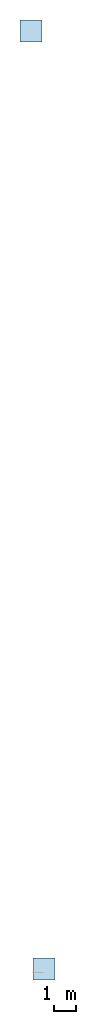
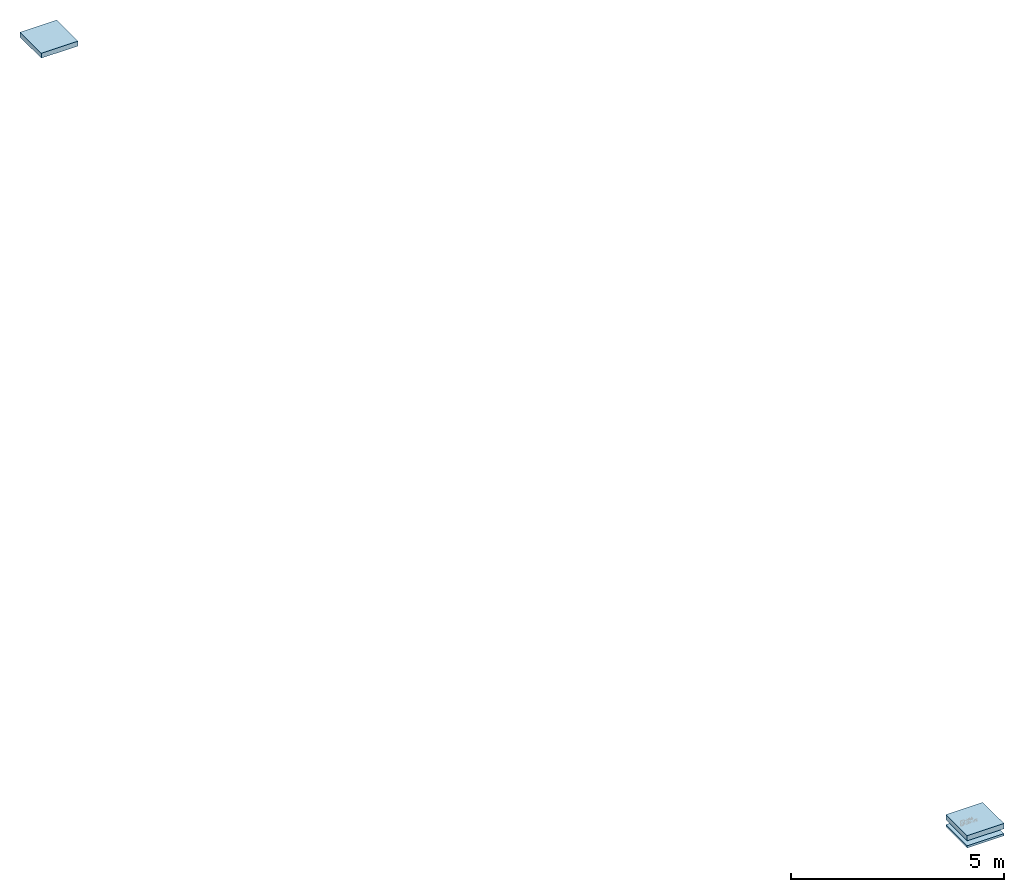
# Not in any storey, part 1 of 2: 2 roofs, 1 slab, 2 elements without a shape of their own.
"""IFC4 model written with IfcOpenShell, lengths in metres."""

from ifc_helpers import new_model, entity, si_unit, converted_unit, derived_unit, direction, frame, origin, place, context, subcontext, project, spatial, indexed_curve, outline, extrude, material, constituent, constituent_set, type_object, element, aggregate, save


model = new_model("IFC4")

# Units and contexts
model_context = context("Model", 3, precision=1e-05, world=origin(), true_north=direction((6.123031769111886e-17, 1.0)))
body_context = subcontext(model_context, "Body", "Model", "MODEL_VIEW")
ifc_project = project(units=[si_unit("LENGTHUNIT", "METRE"), si_unit("AREAUNIT", "SQUARE_METRE"), si_unit("VOLUMEUNIT", "CUBIC_METRE"), converted_unit("PLANEANGLEUNIT", "DEGREE", entity("IfcRatioMeasure", 0.017453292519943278), si_unit("PLANEANGLEUNIT", "RADIAN"), dimensions=[0, 0, 0, 0, 0, 0, 0]), si_unit("MASSUNIT", "GRAM", prefix="KILO"), derived_unit("MASSDENSITYUNIT", [(si_unit("MASSUNIT", "GRAM", prefix="KILO"), 1), (si_unit("LENGTHUNIT", "METRE"), -3)]), derived_unit("IONCONCENTRATIONUNIT", [(si_unit("MASSUNIT", "GRAM", prefix="KILO"), 1), (si_unit("LENGTHUNIT", "METRE"), -3)]), derived_unit("MOMENTOFINERTIAUNIT", [(si_unit("LENGTHUNIT", "METRE"), 4)]), si_unit("TIMEUNIT", "SECOND"), si_unit("FREQUENCYUNIT", "HERTZ"), si_unit("THERMODYNAMICTEMPERATUREUNIT", "DEGREE_CELSIUS"), derived_unit("THERMALTRANSMITTANCEUNIT", [(si_unit("MASSUNIT", "GRAM", prefix="KILO"), 1), (si_unit("THERMODYNAMICTEMPERATUREUNIT", "KELVIN"), -1), (si_unit("TIMEUNIT", "SECOND"), -3)]), derived_unit("THERMALCONDUCTANCEUNIT", [(si_unit("MASSUNIT", "GRAM", prefix="KILO"), 1), (si_unit("THERMODYNAMICTEMPERATUREUNIT", "KELVIN"), -1), (si_unit("TIMEUNIT", "SECOND"), -3), (si_unit("LENGTHUNIT", "METRE"), 1)]), derived_unit("VOLUMETRICFLOWRATEUNIT", [(si_unit("LENGTHUNIT", "METRE"), 3), (si_unit("TIMEUNIT", "SECOND"), -1)]), derived_unit("MASSFLOWRATEUNIT", [(si_unit("MASSUNIT", "GRAM", prefix="KILO"), 1), (si_unit("TIMEUNIT", "SECOND"), -1)]), derived_unit("ROTATIONALFREQUENCYUNIT", [(si_unit("TIMEUNIT", "SECOND"), -1)]), si_unit("ELECTRICCURRENTUNIT", "AMPERE"), si_unit("ELECTRICVOLTAGEUNIT", "VOLT"), si_unit("POWERUNIT", "WATT"), si_unit("FORCEUNIT", "NEWTON", prefix="KILO"), si_unit("ILLUMINANCEUNIT", "LUX"), si_unit("LUMINOUSFLUXUNIT", "LUMEN"), si_unit("LUMINOUSINTENSITYUNIT", "CANDELA"), derived_unit("USERDEFINED", [(si_unit("MASSUNIT", "GRAM", prefix="KILO"), -1), (si_unit("LENGTHUNIT", "METRE"), -2), (si_unit("TIMEUNIT", "SECOND"), 3), (si_unit("LUMINOUSFLUXUNIT", "LUMEN"), 1)]), derived_unit("USERDEFINED", [(si_unit("MASSUNIT", "GRAM", prefix="KILO"), 1), (si_unit("TIMEUNIT", "SECOND"), -3), (si_unit("LENGTHUNIT", "METRE"), 3), (si_unit("ELECTRICCURRENTUNIT", "AMPERE"), -2)]), derived_unit("SOUNDPOWERUNIT", [(si_unit("MASSUNIT", "GRAM", prefix="KILO"), 1), (si_unit("TIMEUNIT", "SECOND"), -3), (si_unit("LENGTHUNIT", "METRE"), 2)]), derived_unit("SOUNDPRESSUREUNIT", [(si_unit("MASSUNIT", "GRAM", prefix="KILO"), 1), (si_unit("LENGTHUNIT", "METRE"), -1), (si_unit("TIMEUNIT", "SECOND"), -2)]), derived_unit("LINEARVELOCITYUNIT", [(si_unit("LENGTHUNIT", "METRE"), 1), (si_unit("TIMEUNIT", "SECOND"), -1)]), si_unit("PRESSUREUNIT", "PASCAL"), derived_unit("USERDEFINED", [(si_unit("MASSUNIT", "GRAM", prefix="KILO"), 1), (si_unit("LENGTHUNIT", "METRE"), -2), (si_unit("TIMEUNIT", "SECOND"), -2)]), derived_unit("LINEARFORCEUNIT", [(si_unit("MASSUNIT", "GRAM", prefix="KILO"), 1), (si_unit("TIMEUNIT", "SECOND"), -2)]), derived_unit("PLANARFORCEUNIT", [(si_unit("MASSUNIT", "GRAM", prefix="KILO"), 1), (si_unit("LENGTHUNIT", "METRE"), -1), (si_unit("TIMEUNIT", "SECOND"), -2)]), derived_unit("SPECIFICHEATCAPACITYUNIT", [(si_unit("THERMODYNAMICTEMPERATUREUNIT", "KELVIN"), -1), (si_unit("LENGTHUNIT", "METRE"), 2), (si_unit("TIMEUNIT", "SECOND"), -2)]), derived_unit("HEATINGVALUEUNIT", [(si_unit("LENGTHUNIT", "METRE"), 2), (si_unit("TIMEUNIT", "SECOND"), -2)]), derived_unit("VAPORPERMEABILITYUNIT", [(si_unit("LENGTHUNIT", "METRE"), -1), (si_unit("TIMEUNIT", "SECOND"), 1)]), derived_unit("DYNAMICVISCOSITYUNIT", [(si_unit("MASSUNIT", "GRAM", prefix="KILO"), 1), (si_unit("TIMEUNIT", "SECOND"), -1), (si_unit("LENGTHUNIT", "METRE"), -1)]), derived_unit("THERMALEXPANSIONCOEFFICIENTUNIT", [(si_unit("THERMODYNAMICTEMPERATUREUNIT", "KELVIN"), -1)]), derived_unit("MODULUSOFELASTICITYUNIT", [(si_unit("MASSUNIT", "GRAM", prefix="KILO"), 1), (si_unit("LENGTHUNIT", "METRE"), -1), (si_unit("TIMEUNIT", "SECOND"), -2)]), derived_unit("ISOTHERMALMOISTURECAPACITYUNIT", [(si_unit("LENGTHUNIT", "METRE"), 3), (si_unit("MASSUNIT", "GRAM", prefix="KILO"), -1)]), derived_unit("MOISTUREDIFFUSIVITYUNIT", [(si_unit("TIMEUNIT", "SECOND"), -1), (si_unit("LENGTHUNIT", "METRE"), 2)])], contexts=[model_context])

# Site
site_placement = place(None, origin())
site = spatial("IfcSite", under=ifc_project, at=site_placement, Name="Default", CompositionType="ELEMENT")

# Assembly, roofs, slab
assembly_placement = place(site_placement, origin())
assembly = element("IfcElementAssembly", 1, at=assembly_placement, inside=site, Name="Dächer Baugruppe:fbimSg_Roof_bc_WOD_vis_at_NTR_natuREbuilt_FD-HM-GRÜN-VS_GK3_72cm", ObjectType="Dächer Baugruppe:fbimSg_Roof_bc_WOD_vis_at_NTR_natuREbuilt_FD-HM-GRÜN-VS_GK3_72cm", AssemblyPlace="NOTDEFINED", PredefinedType="USERDEFINED")
roof_1_placement = place(assembly_placement, frame((-0.5841346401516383, 42.51469223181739, -2.9772997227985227)))
roof_1 = element("IfcRoof", 2, at=roof_1_placement, Name="Basisdach:fbimSg_Roof_sb_WOD_vis_at_NTR_natuREbuilt_DMh_GK3_k_20cm", ObjectType="Basisdach:fbimSg_Roof_sb_WOD_vis_at_NTR_natuREbuilt_DMh_GK3_k_20cm", PredefinedType="NOTDEFINED")
ifc_material_1 = material(Name="fbim_AT_KLH_Massivholz")
slab_type = type_object("IfcSlabType", Name="Basisdach:fbimSg_Roof_sb_WOD_vis_at_NTR_natuREbuilt_DMh_GK3_k_20cm", PredefinedType="ROOF")
slab_placement = place(roof_1_placement, frame((-0.5841346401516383, 42.51469223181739, -2.9772997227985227)))
slab = element("IfcSlab", 3, at=slab_placement, type_object=slab_type, material=ifc_material_1, Name="Basisdach:fbimSg_Roof_sb_WOD_vis_at_NTR_natuREbuilt_DMh_GK3_k_20cm", ObjectType="Basisdach:fbimSg_Roof_sb_WOD_vis_at_NTR_natuREbuilt_DMh_GK3_k_20cm", PredefinedType="ROOF", context=body_context, shape_type="SweptSolid", body=[
    extrude(outline(indexed_curve([(-0.49999999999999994, 0.49999999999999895), (-0.49999999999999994, -0.49999999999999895), (0.49999999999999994, -0.49999999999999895), (0.49999999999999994, 0.49999999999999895), (-0.49999999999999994, 0.49999999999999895)], self_intersect=False)), frame((0.49999999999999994, 0.49999999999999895, 0.0)), (0.0, 0.0, 1.0), 0.14000000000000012),
])
aggregate(roof_1, [slab])
ifc_material_2 = material(Name="fbim_20252030_AT_Begruenung_extensiv")
ifc_constituent_1 = constituent(ifc_material_2, Name="fbim_20252030_AT_Begruenung_extensiv")
ifc_material_3 = material(Name="fbim_10200515_AT_001_Schutzvlies")
ifc_constituent_2 = constituent(ifc_material_3, Name="fbim_10200515_AT_001_Schutzvlies")
ifc_material_4 = material(Name="fbim_14052005_AT_EPDM_Abdichtungsbahn")
ifc_constituent_3 = constituent(ifc_material_4, Name="fbim_14052005_AT_EPDM_Abdichtungsbahn")
ifc_material_5 = material(Name="OENORM A6240 Dämmstoff (Hart)")
ifc_constituent_4 = constituent(ifc_material_5, Name="OENORM A6240 Dämmstoff (Hart)")
ifc_constituent_5 = constituent(ifc_material_4, Name="fbim_14052005_AT_EPDM_Abdichtungsbahn (2)")
ifc_constituent_set_1 = constituent_set(constituents=[ifc_constituent_1, ifc_constituent_2, ifc_constituent_3, ifc_constituent_4, ifc_constituent_5], Name="Basisdach:fbimSg_Roof_dp_INH_vis_at_NTR_natuREbuilt_DMh_GK3_o_35cm")
roof_type_1 = type_object("IfcRoofType", Name="Basisdach:fbimSg_Roof_dp_INH_vis_at_NTR_natuREbuilt_DMh_GK3_o_35cm", PredefinedType="NOTDEFINED")
roof_2_placement = place(assembly_placement, origin())
roof_2 = element("IfcRoof", 4, at=roof_2_placement, type_object=roof_type_1, material=ifc_constituent_set_1, Name="Basisdach:fbimSg_Roof_dp_INH_vis_at_NTR_natuREbuilt_DMh_GK3_o_35cm", ObjectType="Basisdach:fbimSg_Roof_dp_INH_vis_at_NTR_natuREbuilt_DMh_GK3_o_35cm", PredefinedType="NOTDEFINED", context=body_context, shape_type="SweptSolid", body=[
    extrude(outline(indexed_curve([(-0.49999999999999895, -0.49999999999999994), (0.49999999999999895, -0.49999999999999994), (0.49999999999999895, 0.49999999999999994), (-0.49999999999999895, 0.49999999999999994), (-0.49999999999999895, -0.49999999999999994)], self_intersect=False)), frame((-0.08413468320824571, 43.01469223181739, -2.8372998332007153), z_axis=(0.0, 0.0, 1.0), x_axis=(0.0, -1.0, 0.0)), (0.0, 0.0, 1.0), 0.15000000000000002),
])
ifc_material_6 = material(Name="fbim_14100505_AT_Schafwolle")
ifc_constituent_6 = constituent(ifc_material_6, Name="fbim_14100505_AT_Schafwolle")
ifc_material_7 = material(Name="fbim_16101505_AT_Gipsfaserplatte", Category="Gipsputz")
ifc_constituent_7 = constituent(ifc_material_7, Name="fbim_16101505_AT_Gipsfaserplatte", Category="Gipsputz")
ifc_constituent_set_2 = constituent_set(constituents=[ifc_constituent_6, ifc_constituent_7], Name="Basisdach:fbimSg_Roof_dp_DRW_vis_at_NTR_natuREbuilt_DMh_GK3_u_1,25cm")
roof_type_2 = type_object("IfcRoofType", Name="Basisdach:fbimSg_Roof_dp_DRW_vis_at_NTR_natuREbuilt_DMh_GK3_u_1,25cm", PredefinedType="NOTDEFINED")
roof_3_placement = place(assembly_placement, origin())
roof_3 = element("IfcRoof", 5, at=roof_3_placement, type_object=roof_type_2, material=ifc_constituent_set_2, Name="Basisdach:fbimSg_Roof_dp_DRW_vis_at_NTR_natuREbuilt_DMh_GK3_u_1,25cm", ObjectType="Basisdach:fbimSg_Roof_dp_DRW_vis_at_NTR_natuREbuilt_DMh_GK3_u_1,25cm", PredefinedType="NOTDEFINED", context=body_context, shape_type="SweptSolid", body=[
    extrude(outline(indexed_curve([(-0.49999999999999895, -0.49999999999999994), (0.49999999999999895, -0.49999999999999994), (0.49999999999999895, 0.49999999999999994), (-0.49999999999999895, 0.49999999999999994), (-0.49999999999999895, -0.49999999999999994)], self_intersect=False)), frame((-0.084134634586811, 43.01469223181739, -3.0397994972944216), z_axis=(0.0, 0.0, 1.0), x_axis=(0.0, -1.0, 0.0)), (0.0, 0.0, 1.0), 0.06249999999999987),
])
aggregate(assembly, [roof_1, roof_2, roof_3])

save(model, "model.ifc")
